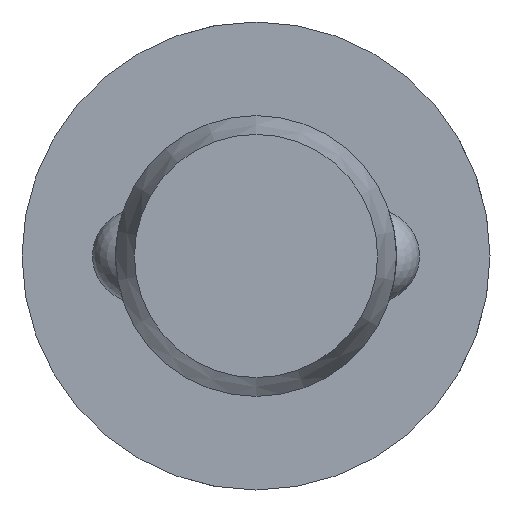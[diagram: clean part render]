
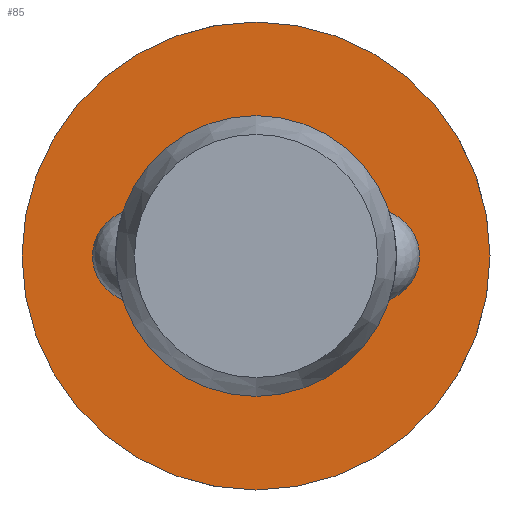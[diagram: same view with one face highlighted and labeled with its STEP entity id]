
A CAD part, left-side view. The second image highlights one B-rep face of the part: STEP entity #85.
In plain terms, the highlighted planar face has unit normal (-1, 0, 0).
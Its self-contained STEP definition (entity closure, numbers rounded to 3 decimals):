
#85 = ADVANCED_FACE( '', ( #131, #132 ), #133, .F. );
#131 = FACE_OUTER_BOUND( '', #204, .T. );
#132 = FACE_BOUND( '', #205, .T. );
#133 = PLANE( '', #206 );
#204 = EDGE_LOOP( '', ( #322 ) );
#205 = EDGE_LOOP( '', ( #323 ) );
#206 = AXIS2_PLACEMENT_3D( '', #324, #325, #326 );
#322 = ORIENTED_EDGE( '', *, *, #470, .F. );
#323 = ORIENTED_EDGE( '', *, *, #467, .T. );
#324 = CARTESIAN_POINT( '', ( 47., 3., 0. ) );
#325 = DIRECTION( '', ( 1., 0., 0. ) );
#326 = DIRECTION( '', ( 0., 0., -1. ) );
#467 = EDGE_CURVE( '', #541, #541, #542, .T. );
#470 = EDGE_CURVE( '', #547, #547, #548, .T. );
#541 = VERTEX_POINT( '', #749 );
#542 = CIRCLE( '', #750, 3. );
#547 = VERTEX_POINT( '', #817 );
#548 = CIRCLE( '', #818, 5. );
#749 = CARTESIAN_POINT( '', ( 47., 0., -3. ) );
#750 = AXIS2_PLACEMENT_3D( '', #897, #898, #899 );
#817 = CARTESIAN_POINT( '', ( 47., 0., -5. ) );
#818 = AXIS2_PLACEMENT_3D( '', #900, #901, #902 );
#897 = CARTESIAN_POINT( '', ( 47., 0., 0. ) );
#898 = DIRECTION( '', ( 1., 0., 0. ) );
#899 = DIRECTION( '', ( 0., 0., -1. ) );
#900 = CARTESIAN_POINT( '', ( 47., 0., 0. ) );
#901 = DIRECTION( '', ( 1., 0., 0. ) );
#902 = DIRECTION( '', ( 0., 0., -1. ) );
